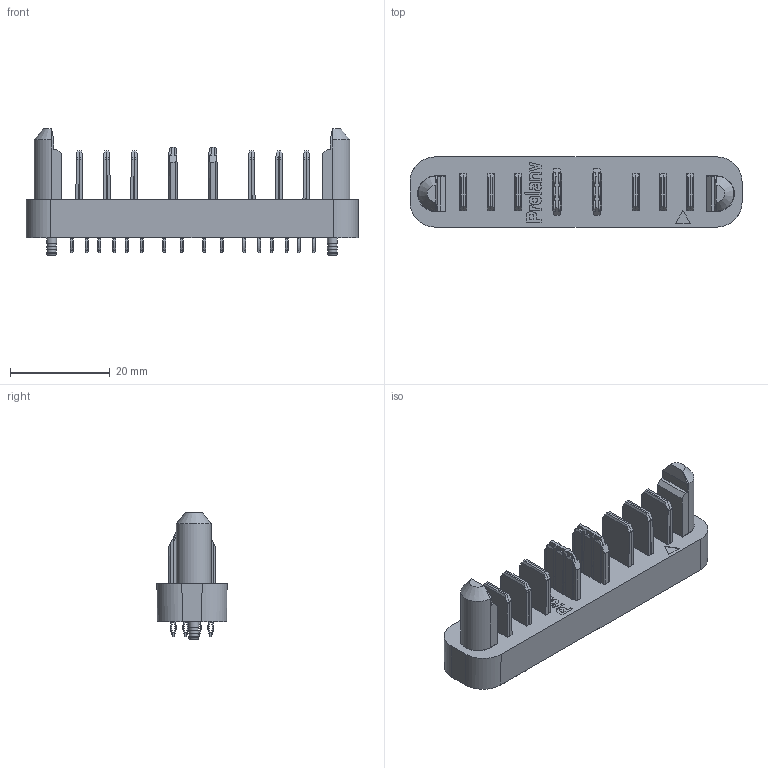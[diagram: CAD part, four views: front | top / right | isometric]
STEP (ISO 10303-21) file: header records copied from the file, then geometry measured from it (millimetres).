
FILE_DESCRIPTION(/* description */ (''),/* implementation_level */ '2;1');
FILE_NAME(/* name */ 'PDC01＋02信号优化Ｘ0.stp',/* time_stamp */ '2025-05-08T16:58:56+08:00',/* author */ (''),/* organization */ (''),/* preprocessor_version */ 'ST-DEVELOPER v16.7',/* originating_system */ 'SIEMENS PLM Software NX 1946',/* authorisation */ '');
FILE_SCHEMA (('AUTOMOTIVE_DESIGN { 1 0 10303 214 3 1 1 1 }'));
Length unit declared in the file: millimetre
Products named in the file (1): PDC01＋02信号优化Ｘ0
Bounding box: 66.5 x 14.05 x 25.38 mm (x, y, z)
Volume: 8010.6 mm3; surface area: 8369.8 mm2
Topology: 1 solids, 1 shells, 3914 faces, 10014 edges, 6148 vertices
Faces by surface type: cylinder 1520, plane 1329, torus 1026, extrusion 31, cone 6, bspline 2
Full cylindrical faces by diameter (mm): 1.8 x4, 2 x6
Entity records: 142714 total; most frequent: DIRECTION 22304, CARTESIAN_POINT 21820, ORIENTED_EDGE 20004, EDGE_CURVE 10002, AXIS2_PLACEMENT_3D 8756, VERTEX_POINT 6148, VECTOR 4792, LINE 4761
